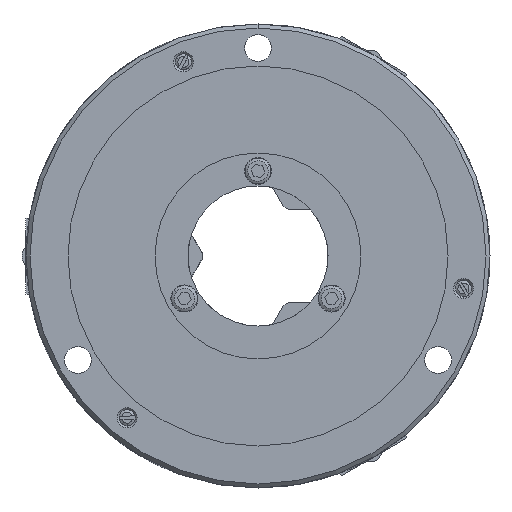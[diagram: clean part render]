
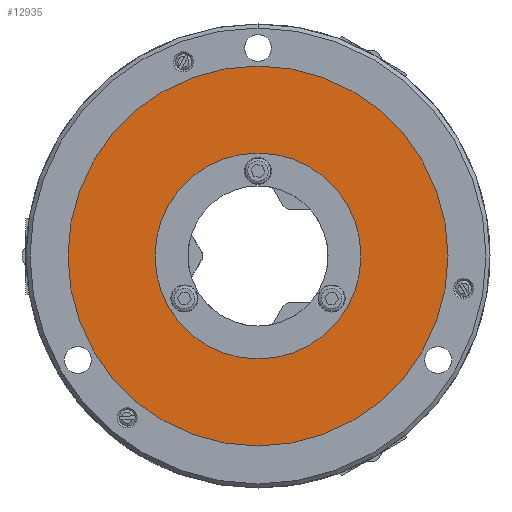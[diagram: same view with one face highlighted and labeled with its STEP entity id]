
A CAD part, left-side view. The second image highlights one B-rep face of the part: STEP entity #12935.
In plain terms, the highlighted planar face has unit normal (-1, 0, 0).
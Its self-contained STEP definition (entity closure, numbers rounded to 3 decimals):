
#257 = DIRECTION ( 'NONE',  ( 0., 0., -1. ) ) ;
#447 = AXIS2_PLACEMENT_3D ( 'NONE', #7655, #10047, #8795 ) ;
#623 = EDGE_CURVE ( 'NONE', #10437, #1720, #3584, .T. ) ;
#660 = AXIS2_PLACEMENT_3D ( 'NONE', #7261, #10128, #7349 ) ;
#1720 = VERTEX_POINT ( 'NONE', #6947 ) ;
#2165 = DIRECTION ( 'NONE',  ( 0., 0., -1. ) ) ;
#2547 = EDGE_CURVE ( 'NONE', #13013, #3004, #11451, .T. ) ;
#3004 = VERTEX_POINT ( 'NONE', #7112 ) ;
#3584 = CIRCLE ( 'NONE', #660, 51.5 ) ;
#3929 = DIRECTION ( 'NONE',  ( 1., 0., 0. ) ) ;
#4074 = EDGE_CURVE ( 'NONE', #3004, #13013, #7698, .T. ) ;
#4634 = EDGE_LOOP ( 'NONE', ( #14902, #8824 ) ) ;
#4997 = FACE_OUTER_BOUND ( 'NONE', #4634, .T. ) ;
#6492 = PLANE ( 'NONE',  #447 ) ;
#6680 = ORIENTED_EDGE ( 'NONE', *, *, #16011, .T. ) ;
#6883 = ORIENTED_EDGE ( 'NONE', *, *, #623, .T. ) ;
#6947 = CARTESIAN_POINT ( 'NONE',  ( -78., 0., -51.5 ) ) ;
#7112 = CARTESIAN_POINT ( 'NONE',  ( -78., 0., -95. ) ) ;
#7261 = CARTESIAN_POINT ( 'NONE',  ( -78., 0., 0. ) ) ;
#7349 = DIRECTION ( 'NONE',  ( 0., 0., -1. ) ) ;
#7655 = CARTESIAN_POINT ( 'NONE',  ( -78., 47.5, -82.272 ) ) ;
#7698 = CIRCLE ( 'NONE', #13239, 95. ) ;
#8795 = DIRECTION ( 'NONE',  ( 0., 0., 1. ) ) ;
#8824 = ORIENTED_EDGE ( 'NONE', *, *, #2547, .F. ) ;
#9043 = FACE_BOUND ( 'NONE', #11342, .T. ) ;
#10047 = DIRECTION ( 'NONE',  ( -1., 0., 0. ) ) ;
#10128 = DIRECTION ( 'NONE',  ( 1., 0., 0. ) ) ;
#10437 = VERTEX_POINT ( 'NONE', #11876 ) ;
#10777 = DIRECTION ( 'NONE',  ( 1., 0., 0. ) ) ;
#11342 = EDGE_LOOP ( 'NONE', ( #6680, #6883 ) ) ;
#11451 = CIRCLE ( 'NONE', #13026, 95. ) ;
#11876 = CARTESIAN_POINT ( 'NONE',  ( -78., 0., 51.5 ) ) ;
#12171 = DIRECTION ( 'NONE',  ( 0., 0., -1. ) ) ;
#12241 = CARTESIAN_POINT ( 'NONE',  ( -78., 0., 0. ) ) ;
#12924 = AXIS2_PLACEMENT_3D ( 'NONE', #15108, #14779, #2165 ) ;
#12935 = ADVANCED_FACE ( 'NONE', ( #9043, #4997 ), #6492, .T. ) ;
#12942 = CARTESIAN_POINT ( 'NONE',  ( -78., 0., 0. ) ) ;
#13013 = VERTEX_POINT ( 'NONE', #15527 ) ;
#13026 = AXIS2_PLACEMENT_3D ( 'NONE', #12942, #3929, #257 ) ;
#13184 = CIRCLE ( 'NONE', #12924, 51.5 ) ;
#13239 = AXIS2_PLACEMENT_3D ( 'NONE', #12241, #10777, #12171 ) ;
#14779 = DIRECTION ( 'NONE',  ( 1., 0., 0. ) ) ;
#14902 = ORIENTED_EDGE ( 'NONE', *, *, #4074, .F. ) ;
#15108 = CARTESIAN_POINT ( 'NONE',  ( -78., 0., 0. ) ) ;
#15527 = CARTESIAN_POINT ( 'NONE',  ( -78., 0., 95. ) ) ;
#16011 = EDGE_CURVE ( 'NONE', #1720, #10437, #13184, .T. ) ;
